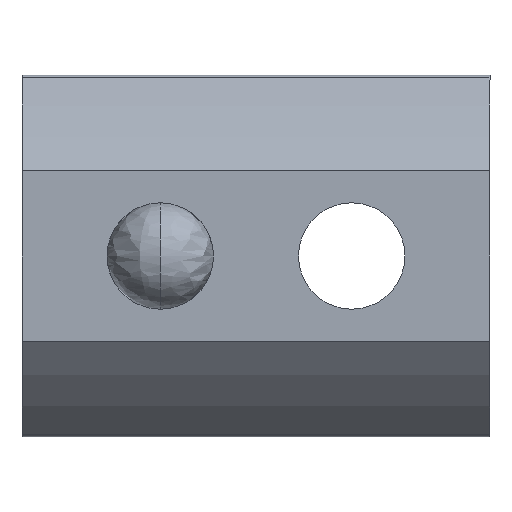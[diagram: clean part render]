
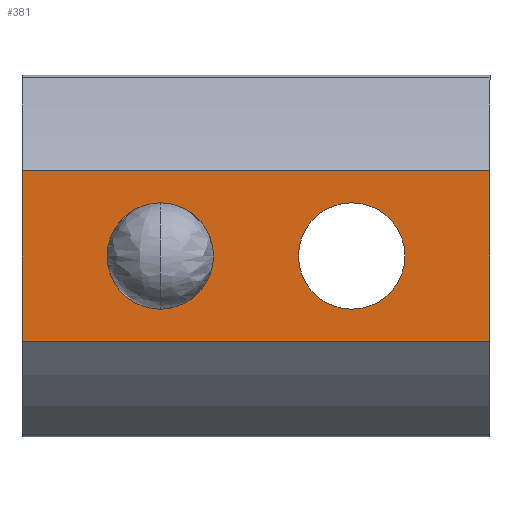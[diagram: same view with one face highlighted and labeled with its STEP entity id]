
A CAD part, front view. The second image highlights one B-rep face of the part: STEP entity #381.
In plain terms, the highlighted planar face has unit normal (0, -1, 0).
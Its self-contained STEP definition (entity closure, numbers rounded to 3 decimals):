
#11 = EDGE_CURVE ( 'NONE', #1523, #1002, #828, .T. ) ;
#33 = EDGE_CURVE ( 'NONE', #1046, #1596, #818, .T. ) ;
#60 = EDGE_CURVE ( 'NONE', #1596, #1523, #812, .T. ) ;
#70 = CARTESIAN_POINT ( 'NONE',  ( -2.25, -9.6, 13.25 ) ) ;
#133 = DIRECTION ( 'NONE',  ( 0., 0., -1. ) ) ;
#166 = VERTEX_POINT ( 'NONE', #680 ) ;
#194 = EDGE_CURVE ( 'NONE', #1268, #1516, #747, .T. ) ;
#260 = CIRCLE ( 'NONE', #2028, 2.5 ) ;
#314 = VECTOR ( 'NONE', #1240, 1000. ) ;
#321 = LINE ( 'NONE', #522, #314 ) ;
#381 = ADVANCED_FACE ( 'NONE', ( #704, #695, #698 ), #1959, .F. ) ;
#389 = DIRECTION ( 'NONE',  ( 1., 0., 0. ) ) ;
#407 = DIRECTION ( 'NONE',  ( 0., -1., 0. ) ) ;
#522 = CARTESIAN_POINT ( 'NONE',  ( -8.75, -9.6, 17.25 ) ) ;
#558 = AXIS2_PLACEMENT_3D ( 'NONE', #1078, #1027, #1126 ) ;
#591 = EDGE_CURVE ( 'NONE', #1516, #1268, #643, .T. ) ;
#637 = CIRCLE ( 'NONE', #909, 2.5 ) ;
#638 = EDGE_CURVE ( 'NONE', #166, #1133, #637, .T. ) ;
#643 = CIRCLE ( 'NONE', #1558, 2.5 ) ;
#680 = CARTESIAN_POINT ( 'NONE',  ( -2.25, -9.6, 15.75 ) ) ;
#695 = FACE_BOUND ( 'NONE', #943, .T. ) ;
#698 = FACE_OUTER_BOUND ( 'NONE', #1604, .T. ) ;
#704 = FACE_BOUND ( 'NONE', #1902, .T. ) ;
#727 = AXIS2_PLACEMENT_3D ( 'NONE', #1877, #1903, #1258 ) ;
#747 = CIRCLE ( 'NONE', #727, 2.5 ) ;
#793 = VECTOR ( 'NONE', #1177, 1000. ) ;
#803 = VECTOR ( 'NONE', #908, 1000. ) ;
#812 = LINE ( 'NONE', #1812, #793 ) ;
#813 = VECTOR ( 'NONE', #882, 1000. ) ;
#818 = LINE ( 'NONE', #1096, #803 ) ;
#828 = LINE ( 'NONE', #1535, #813 ) ;
#861 = CARTESIAN_POINT ( 'NONE',  ( -8.75, -9.6, 9.25 ) ) ;
#882 = DIRECTION ( 'NONE',  ( 0., 0., 1. ) ) ;
#908 = DIRECTION ( 'NONE',  ( 0., 0., -1. ) ) ;
#909 = AXIS2_PLACEMENT_3D ( 'NONE', #70, #1677, #133 ) ;
#938 = ORIENTED_EDGE ( 'NONE', *, *, #33, .F. ) ;
#943 = EDGE_LOOP ( 'NONE', ( #1168, #1291 ) ) ;
#1002 = VERTEX_POINT ( 'NONE', #1476 ) ;
#1027 = DIRECTION ( 'NONE',  ( 0., 1., 0. ) ) ;
#1046 = VERTEX_POINT ( 'NONE', #1721 ) ;
#1078 = CARTESIAN_POINT ( 'NONE',  ( -8.75, -9.6, 9.25 ) ) ;
#1096 = CARTESIAN_POINT ( 'NONE',  ( 13.25, -9.6, 9.25 ) ) ;
#1126 = DIRECTION ( 'NONE',  ( -1., 0., 0. ) ) ;
#1133 = VERTEX_POINT ( 'NONE', #1743 ) ;
#1168 = ORIENTED_EDGE ( 'NONE', *, *, #591, .F. ) ;
#1177 = DIRECTION ( 'NONE',  ( -1., 0., 0. ) ) ;
#1240 = DIRECTION ( 'NONE',  ( 1., 0., 0. ) ) ;
#1258 = DIRECTION ( 'NONE',  ( 1., 0., 0. ) ) ;
#1268 = VERTEX_POINT ( 'NONE', #1763 ) ;
#1291 = ORIENTED_EDGE ( 'NONE', *, *, #194, .F. ) ;
#1353 = ORIENTED_EDGE ( 'NONE', *, *, #638, .F. ) ;
#1414 = ORIENTED_EDGE ( 'NONE', *, *, #11, .F. ) ;
#1437 = CARTESIAN_POINT ( 'NONE',  ( -2.25, -9.6, 13.25 ) ) ;
#1443 = DIRECTION ( 'NONE',  ( 0., -1., 0. ) ) ;
#1448 = EDGE_CURVE ( 'NONE', #1002, #1046, #321, .T. ) ;
#1450 = DIRECTION ( 'NONE',  ( 0., 0., -1. ) ) ;
#1455 = ORIENTED_EDGE ( 'NONE', *, *, #60, .F. ) ;
#1476 = CARTESIAN_POINT ( 'NONE',  ( -8.75, -9.6, 17.25 ) ) ;
#1516 = VERTEX_POINT ( 'NONE', #1871 ) ;
#1523 = VERTEX_POINT ( 'NONE', #861 ) ;
#1535 = CARTESIAN_POINT ( 'NONE',  ( -8.75, -9.6, 9.25 ) ) ;
#1558 = AXIS2_PLACEMENT_3D ( 'NONE', #1866, #407, #389 ) ;
#1587 = ORIENTED_EDGE ( 'NONE', *, *, #1908, .F. ) ;
#1596 = VERTEX_POINT ( 'NONE', #1990 ) ;
#1604 = EDGE_LOOP ( 'NONE', ( #1624, #1414, #1455, #938 ) ) ;
#1624 = ORIENTED_EDGE ( 'NONE', *, *, #1448, .F. ) ;
#1677 = DIRECTION ( 'NONE',  ( 0., -1., 0. ) ) ;
#1721 = CARTESIAN_POINT ( 'NONE',  ( 13.25, -9.6, 17.25 ) ) ;
#1743 = CARTESIAN_POINT ( 'NONE',  ( -2.25, -9.6, 10.75 ) ) ;
#1763 = CARTESIAN_POINT ( 'NONE',  ( 4.25, -9.6, 13.25 ) ) ;
#1812 = CARTESIAN_POINT ( 'NONE',  ( -8.75, -9.6, 9.25 ) ) ;
#1866 = CARTESIAN_POINT ( 'NONE',  ( 6.75, -9.6, 13.25 ) ) ;
#1871 = CARTESIAN_POINT ( 'NONE',  ( 9.25, -9.6, 13.25 ) ) ;
#1877 = CARTESIAN_POINT ( 'NONE',  ( 6.75, -9.6, 13.25 ) ) ;
#1902 = EDGE_LOOP ( 'NONE', ( #1587, #1353 ) ) ;
#1903 = DIRECTION ( 'NONE',  ( 0., -1., 0. ) ) ;
#1908 = EDGE_CURVE ( 'NONE', #1133, #166, #260, .T. ) ;
#1959 = PLANE ( 'NONE',  #558 ) ;
#1990 = CARTESIAN_POINT ( 'NONE',  ( 13.25, -9.6, 9.25 ) ) ;
#2028 = AXIS2_PLACEMENT_3D ( 'NONE', #1437, #1443, #1450 ) ;
